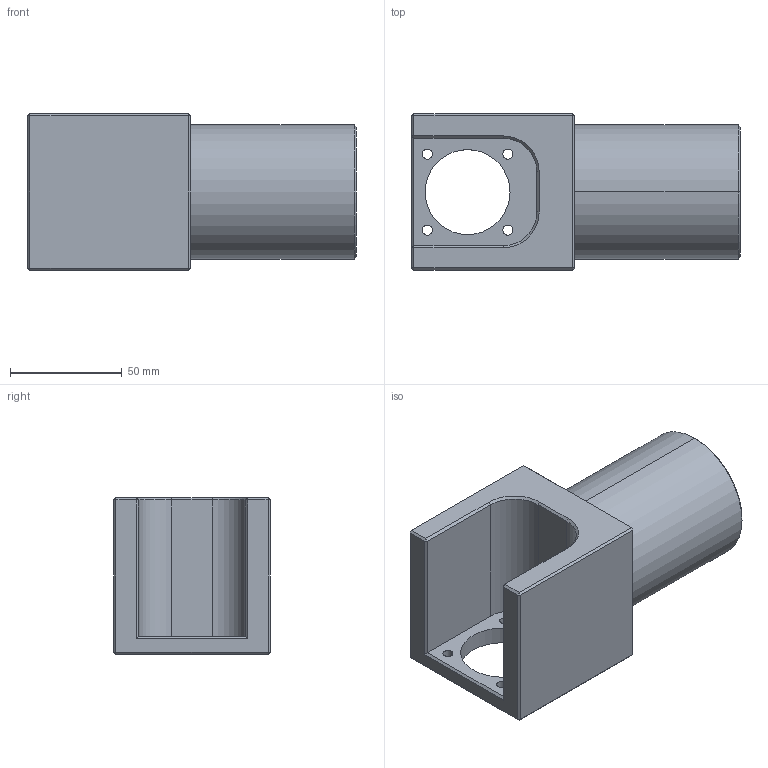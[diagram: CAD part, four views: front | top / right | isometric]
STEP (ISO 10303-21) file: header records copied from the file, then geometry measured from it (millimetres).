
FILE_DESCRIPTION (( 'STEP AP203' ), '1' );
FILE_NAME ('Swivel bracket LS22 042J000002.STEP', '2009-10-15T06:20:05', ( 'HP' ), ( '' ), 'SwSTEP 2.0', 'SolidWorks 2008', '' );
FILE_SCHEMA (( 'CONFIG_CONTROL_DESIGN' ));
Length unit declared in the file: millimetre
Products named in the file (1): Swivel bracket LS22 042J000002
Bounding box: 147 x 70 x 70 mm (x, y, z)
Volume: 395917.2 mm3; surface area: 48612.1 mm2
Topology: 1 solids, 1 shells, 70 faces, 151 edges, 88 vertices
Faces by surface type: plane 44, cylinder 22, cone 4
Entity records: 1956 total; most frequent: DIRECTION 341, CARTESIAN_POINT 310, ORIENTED_EDGE 302, EDGE_CURVE 151, AXIS2_PLACEMENT_3D 119, VECTOR 103, LINE 103, VERTEX_POINT 88
